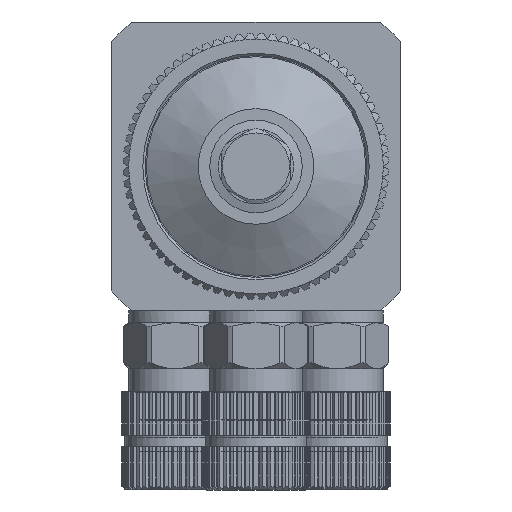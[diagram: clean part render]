
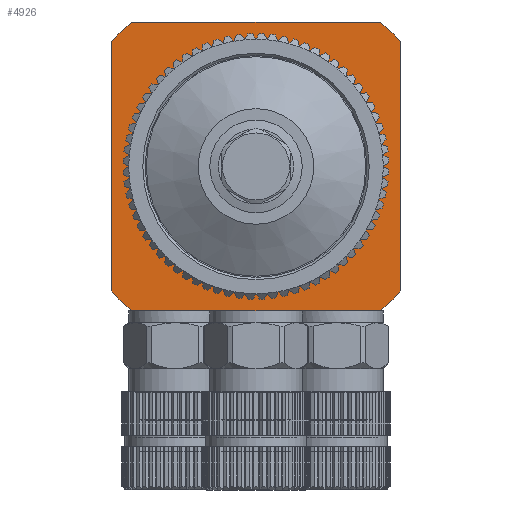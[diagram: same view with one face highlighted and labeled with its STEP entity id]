
A CAD part, front view. The second image highlights one B-rep face of the part: STEP entity #4926.
In plain terms, the highlighted planar face has unit normal (0, -1, 0).
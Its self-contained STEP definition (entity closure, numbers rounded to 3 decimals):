
#671 = CARTESIAN_POINT ( 'NONE',  ( -10.77, 12.402, -12.5 ) ) ;
#1316 = DIRECTION ( 'NONE',  ( 1., 0., 0. ) ) ;
#1997 = EDGE_CURVE ( 'NONE', #34711, #52983, #31918, .T. ) ;
#3022 = VERTEX_POINT ( 'NONE', #30572 ) ;
#3213 = CARTESIAN_POINT ( 'NONE',  ( 0., 12.402, -12.5 ) ) ;
#3401 = CARTESIAN_POINT ( 'NONE',  ( 10.77, 12.402, 12.5 ) ) ;
#4030 = EDGE_CURVE ( 'NONE', #15822, #3022, #46279, .T. ) ;
#4926 = ADVANCED_FACE ( 'NONE', ( #56507, #48318 ), #34332, .T. ) ;
#7233 = CARTESIAN_POINT ( 'NONE',  ( -12.5, 12.402, 12.5 ) ) ;
#7722 = DIRECTION ( 'NONE',  ( 0., -1., 0. ) ) ;
#8004 = VERTEX_POINT ( 'NONE', #3401 ) ;
#8166 = DIRECTION ( 'NONE',  ( 1., 0., 0. ) ) ;
#8946 = CARTESIAN_POINT ( 'NONE',  ( 0., 12.402, 0. ) ) ;
#11649 = CARTESIAN_POINT ( 'NONE',  ( 12.5, 12.402, 12.5 ) ) ;
#12291 = VERTEX_POINT ( 'NONE', #56788 ) ;
#13758 = VERTEX_POINT ( 'NONE', #22425 ) ;
#14204 = AXIS2_PLACEMENT_3D ( 'NONE', #8946, #31134, #16834 ) ;
#15776 = DIRECTION ( 'NONE',  ( 0., 0., 1. ) ) ;
#15822 = VERTEX_POINT ( 'NONE', #31880 ) ;
#16827 = AXIS2_PLACEMENT_3D ( 'NONE', #57769, #35878, #41068 ) ;
#16834 = DIRECTION ( 'NONE',  ( 0., 0., 1. ) ) ;
#17984 = CARTESIAN_POINT ( 'NONE',  ( -12.5, 12.402, -10.77 ) ) ;
#18100 = EDGE_CURVE ( 'NONE', #21089, #8004, #20348, .T. ) ;
#20014 = EDGE_CURVE ( 'NONE', #13758, #36825, #22113, .T. ) ;
#20348 = CIRCLE ( 'NONE', #35286, 16.5 ) ;
#21089 = VERTEX_POINT ( 'NONE', #38900 ) ;
#21928 = ORIENTED_EDGE ( 'NONE', *, *, #18100, .T. ) ;
#21940 = LINE ( 'NONE', #3213, #56560 ) ;
#22089 = ORIENTED_EDGE ( 'NONE', *, *, #24215, .F. ) ;
#22113 = CIRCLE ( 'NONE', #32355, 16.5 ) ;
#22425 = CARTESIAN_POINT ( 'NONE',  ( -10.77, 12.402, 12.5 ) ) ;
#23399 = VECTOR ( 'NONE', #1316, 1000. ) ;
#23584 = CARTESIAN_POINT ( 'NONE',  ( 0., 12.402, 0. ) ) ;
#23874 = DIRECTION ( 'NONE',  ( 0., -1., 0. ) ) ;
#24215 = EDGE_CURVE ( 'NONE', #12291, #3022, #34767, .T. ) ;
#24979 = CARTESIAN_POINT ( 'NONE',  ( 12.5, 12.402, 12.5 ) ) ;
#24997 = DIRECTION ( 'NONE',  ( 0., 0., 1. ) ) ;
#25105 = LINE ( 'NONE', #47573, #47807 ) ;
#25547 = DIRECTION ( 'NONE',  ( 0., 0., -1. ) ) ;
#27528 = ORIENTED_EDGE ( 'NONE', *, *, #44770, .F. ) ;
#29081 = CARTESIAN_POINT ( 'NONE',  ( 0., 12.402, 0. ) ) ;
#30572 = CARTESIAN_POINT ( 'NONE',  ( 10.77, 12.402, -12.5 ) ) ;
#30844 = ORIENTED_EDGE ( 'NONE', *, *, #20014, .T. ) ;
#31134 = DIRECTION ( 'NONE',  ( 0., -1., 0. ) ) ;
#31880 = CARTESIAN_POINT ( 'NONE',  ( 0., 12.402, -12.5 ) ) ;
#31918 = CIRCLE ( 'NONE', #14204, 16.5 ) ;
#32330 = CARTESIAN_POINT ( 'NONE',  ( -12.5, 12.402, 10.77 ) ) ;
#32355 = AXIS2_PLACEMENT_3D ( 'NONE', #23584, #23874, #36463 ) ;
#33271 = ORIENTED_EDGE ( 'NONE', *, *, #1997, .T. ) ;
#33685 = ORIENTED_EDGE ( 'NONE', *, *, #45762, .F. ) ;
#34332 = PLANE ( 'NONE',  #47915 ) ;
#34711 = VERTEX_POINT ( 'NONE', #17984 ) ;
#34767 = CIRCLE ( 'NONE', #44998, 16.5 ) ;
#35286 = AXIS2_PLACEMENT_3D ( 'NONE', #29081, #38435, #24997 ) ;
#35878 = DIRECTION ( 'NONE',  ( 0., 1., 0. ) ) ;
#36463 = DIRECTION ( 'NONE',  ( 0., 0., 1. ) ) ;
#36790 = ORIENTED_EDGE ( 'NONE', *, *, #37444, .T. ) ;
#36825 = VERTEX_POINT ( 'NONE', #32330 ) ;
#37263 = CARTESIAN_POINT ( 'NONE',  ( 0., 12.402, -12.5 ) ) ;
#37444 = EDGE_CURVE ( 'NONE', #52983, #15822, #21940, .T. ) ;
#38220 = DIRECTION ( 'NONE',  ( 0., 0., -1. ) ) ;
#38435 = DIRECTION ( 'NONE',  ( 0., -1., 0. ) ) ;
#38781 = LINE ( 'NONE', #7233, #51555 ) ;
#38900 = CARTESIAN_POINT ( 'NONE',  ( 12.5, 12.402, 10.77 ) ) ;
#41068 = DIRECTION ( 'NONE',  ( 0., 0., 1. ) ) ;
#41559 = EDGE_CURVE ( 'NONE', #51556, #51556, #41969, .T. ) ;
#41969 = CIRCLE ( 'NONE', #16827, 10.5 ) ;
#44005 = DIRECTION ( 'NONE',  ( 0., 0., 1. ) ) ;
#44323 = EDGE_CURVE ( 'NONE', #13758, #8004, #25105, .T. ) ;
#44770 = EDGE_CURVE ( 'NONE', #34711, #36825, #38781, .T. ) ;
#44998 = AXIS2_PLACEMENT_3D ( 'NONE', #51962, #56343, #15776 ) ;
#45762 = EDGE_CURVE ( 'NONE', #21089, #12291, #55726, .T. ) ;
#46279 = LINE ( 'NONE', #37263, #23399 ) ;
#47476 = CARTESIAN_POINT ( 'NONE',  ( 0., 12.402, 10.5 ) ) ;
#47573 = CARTESIAN_POINT ( 'NONE',  ( -12.5, 12.402, 12.5 ) ) ;
#47807 = VECTOR ( 'NONE', #8166, 1000. ) ;
#47915 = AXIS2_PLACEMENT_3D ( 'NONE', #24979, #7722, #25547 ) ;
#48188 = DIRECTION ( 'NONE',  ( 1., 0., 0. ) ) ;
#48318 = FACE_OUTER_BOUND ( 'NONE', #50462, .T. ) ;
#50462 = EDGE_LOOP ( 'NONE', ( #54642, #22089, #33685, #21928, #56061, #30844, #27528, #33271, #36790 ) ) ;
#51555 = VECTOR ( 'NONE', #44005, 1000. ) ;
#51556 = VERTEX_POINT ( 'NONE', #47476 ) ;
#51962 = CARTESIAN_POINT ( 'NONE',  ( 0., 12.402, 0. ) ) ;
#52983 = VERTEX_POINT ( 'NONE', #671 ) ;
#54642 = ORIENTED_EDGE ( 'NONE', *, *, #4030, .T. ) ;
#55401 = VECTOR ( 'NONE', #38220, 1000. ) ;
#55726 = LINE ( 'NONE', #11649, #55401 ) ;
#56061 = ORIENTED_EDGE ( 'NONE', *, *, #44323, .F. ) ;
#56200 = EDGE_LOOP ( 'NONE', ( #56772 ) ) ;
#56343 = DIRECTION ( 'NONE',  ( 0., 1., 0. ) ) ;
#56507 = FACE_BOUND ( 'NONE', #56200, .T. ) ;
#56560 = VECTOR ( 'NONE', #48188, 1000. ) ;
#56772 = ORIENTED_EDGE ( 'NONE', *, *, #41559, .T. ) ;
#56788 = CARTESIAN_POINT ( 'NONE',  ( 12.5, 12.402, -10.77 ) ) ;
#57769 = CARTESIAN_POINT ( 'NONE',  ( 0., 12.402, 0. ) ) ;
